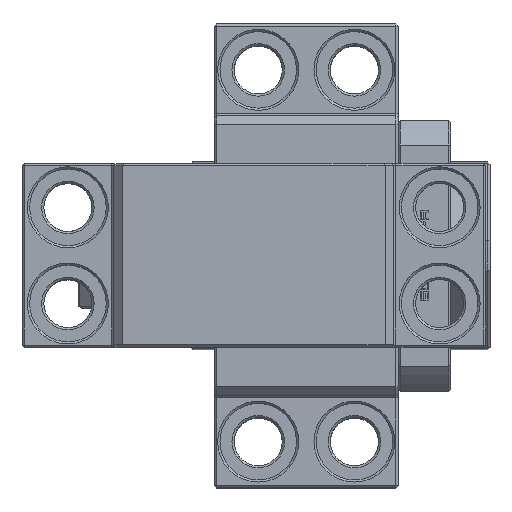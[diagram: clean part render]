
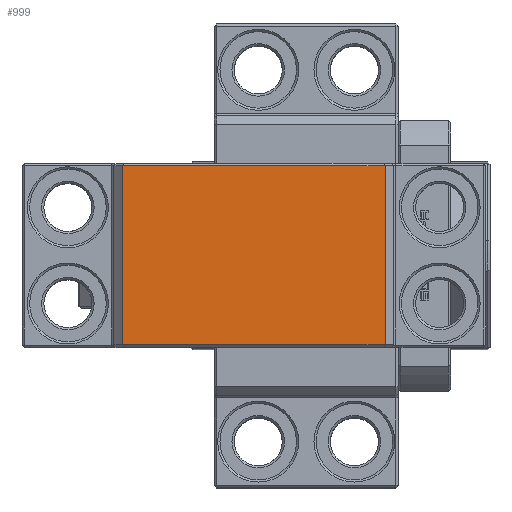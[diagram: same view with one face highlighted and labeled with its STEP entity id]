
A CAD part, top view. The second image highlights one B-rep face of the part: STEP entity #999.
In plain terms, the highlighted planar face has unit normal (0, 0, 1).
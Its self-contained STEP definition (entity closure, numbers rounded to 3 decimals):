
#999 = ADVANCED_FACE( '', ( #2368 ), #2369, .T. );
#2368 = FACE_OUTER_BOUND( '', #4054, .T. );
#2369 = PLANE( '', #4055 );
#4054 = EDGE_LOOP( '', ( #8336, #8337, #8338, #8339 ) );
#4055 = AXIS2_PLACEMENT_3D( '', #8340, #8341, #8342 );
#8336 = ORIENTED_EDGE( '', *, *, #11437, .T. );
#8337 = ORIENTED_EDGE( '', *, *, #10753, .T. );
#8338 = ORIENTED_EDGE( '', *, *, #10748, .T. );
#8339 = ORIENTED_EDGE( '', *, *, #11381, .T. );
#8340 = CARTESIAN_POINT( '', ( 0., -21., 80. ) );
#8341 = DIRECTION( '', ( 0., 0., 1. ) );
#8342 = DIRECTION( '', ( 1., 0., 0. ) );
#10748 = EDGE_CURVE( '', #12901, #12902, #12903, .T. );
#10753 = EDGE_CURVE( '', #12908, #12901, #12909, .T. );
#11381 = EDGE_CURVE( '', #12902, #12960, #13864, .T. );
#11437 = EDGE_CURVE( '', #12960, #12908, #13951, .T. );
#12901 = VERTEX_POINT( '', #16749 );
#12902 = VERTEX_POINT( '', #16750 );
#12903 = LINE( '', #16751, #16752 );
#12908 = VERTEX_POINT( '', #16761 );
#12909 = LINE( '', #16762, #16763 );
#12960 = VERTEX_POINT( '', #16843 );
#13864 = LINE( '', #18177, #18178 );
#13951 = LINE( '', #18737, #18738 );
#16749 = CARTESIAN_POINT( '', ( -30., 20.5, 80. ) );
#16750 = CARTESIAN_POINT( '', ( -30., -20.5, 80. ) );
#16751 = CARTESIAN_POINT( '', ( -30., -21., 80. ) );
#16752 = VECTOR( '', #21208, 1000. );
#16761 = CARTESIAN_POINT( '', ( 30., 20.5, 80. ) );
#16762 = CARTESIAN_POINT( '', ( 0., 20.5, 80. ) );
#16763 = VECTOR( '', #21213, 1000. );
#16843 = CARTESIAN_POINT( '', ( 30., -20.5, 80. ) );
#18177 = CARTESIAN_POINT( '', ( 30., -20.5, 80. ) );
#18178 = VECTOR( '', #22177, 1000. );
#18737 = CARTESIAN_POINT( '', ( 30., -21., 80. ) );
#18738 = VECTOR( '', #22257, 1000. );
#21208 = DIRECTION( '', ( 0., -1., 0. ) );
#21213 = DIRECTION( '', ( -1., 0., 0. ) );
#22177 = DIRECTION( '', ( 1., 0., 0. ) );
#22257 = DIRECTION( '', ( 0., 1., 0. ) );
